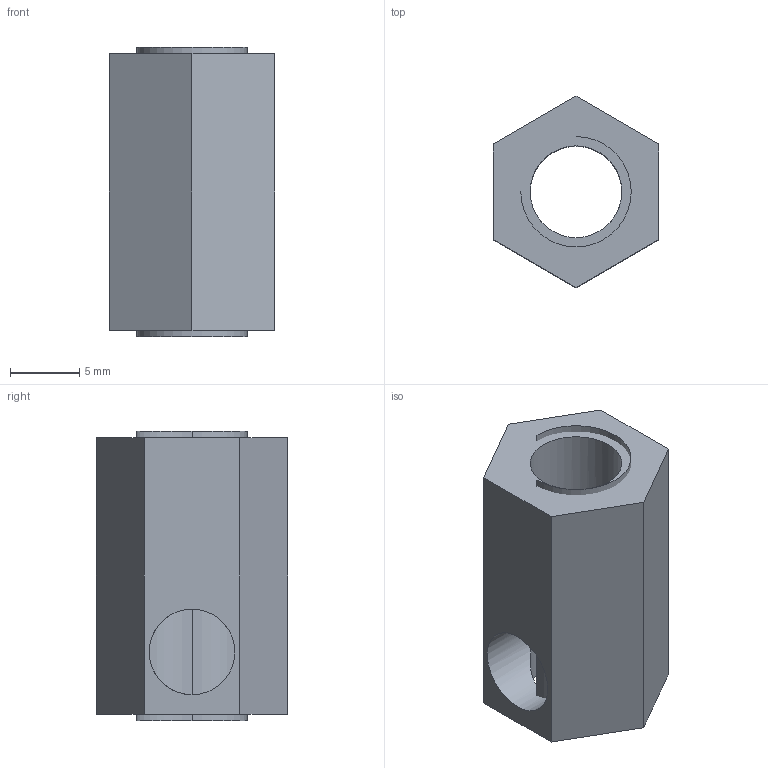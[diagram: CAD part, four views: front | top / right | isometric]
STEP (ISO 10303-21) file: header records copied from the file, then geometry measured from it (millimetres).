
FILE_DESCRIPTION(/* description */ (''),/* implementation_level */ '2;1');
FILE_NAME(/* name */ 'H:\5-Olympiades\47e\Sujet Régional\Etau\A donner aux candidats\2-Après-Midi\15-Ecrou de serrage.stp',/* time_stamp */ '2022-03-30T09:31:20+02:00',/* author */ ('Philippe'),/* organization */ (''),/* preprocessor_version */ 'ST-DEVELOPER v18',/* originating_system */ 'Autodesk Inventor 2020',/* authorisation */ '');
FILE_SCHEMA (('CONFIG_CONTROL_DESIGN'));
Length unit declared in the file: millimetre
Products named in the file (1): 15-Ecrou de serrage
Bounding box: 12 x 13.86 x 21 mm (x, y, z)
Volume: 1613.1 mm3; surface area: 1833.8 mm2
Topology: 1 solids, 2 shells, 12 faces, 37 edges, 27 vertices
Faces by surface type: plane 8, cylinder 4
Full cylindrical faces by diameter (mm): 6.2 x2, 6.647 x1
Entity records: 567 total; most frequent: CARTESIAN_POINT 178, ORIENTED_EDGE 70, DIRECTION 66, EDGE_CURVE 37, VERTEX_POINT 27, LINE 24, VECTOR 24, AXIS2_PLACEMENT_3D 21
